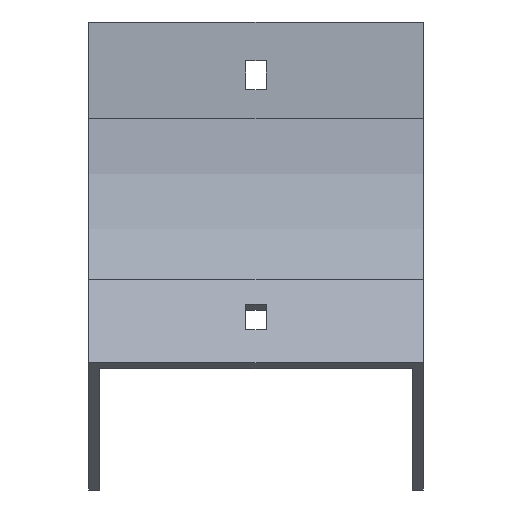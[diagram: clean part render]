
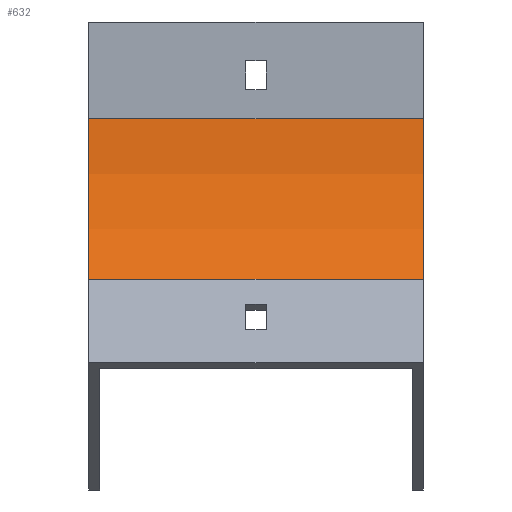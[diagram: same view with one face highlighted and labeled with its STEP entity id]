
A CAD part, front view. The second image highlights one B-rep face of the part: STEP entity #632.
In plain terms, the highlighted cylindrical face has radius 100 mm (diameter 200 mm), a partial arc.
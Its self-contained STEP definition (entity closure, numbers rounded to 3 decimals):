
#2 = LINE ( 'NONE', #610, #114 ) ;
#55 = DIRECTION ( 'NONE',  ( 0., 0., 1. ) ) ;
#95 = EDGE_CURVE ( 'NONE', #1310, #228, #694, .T. ) ;
#114 = VECTOR ( 'NONE', #1625, 1000. ) ;
#119 = AXIS2_PLACEMENT_3D ( 'NONE', #1873, #668, #55 ) ;
#131 = CARTESIAN_POINT ( 'NONE',  ( -52., 0., -30. ) ) ;
#228 = VERTEX_POINT ( 'NONE', #1279 ) ;
#352 = EDGE_LOOP ( 'NONE', ( #1575, #1280, #1222, #1781 ) ) ;
#376 = CARTESIAN_POINT ( 'NONE',  ( 52., -13.397, -80. ) ) ;
#610 = CARTESIAN_POINT ( 'NONE',  ( 52., 0., -30. ) ) ;
#632 = ADVANCED_FACE ( 'NONE', ( #828 ), #679, .F. ) ;
#668 = DIRECTION ( 'NONE',  ( -1., 0., 0. ) ) ;
#679 = CYLINDRICAL_SURFACE ( 'NONE', #119, 100. ) ;
#694 = CIRCLE ( 'NONE', #1092, 100. ) ;
#716 = CARTESIAN_POINT ( 'NONE',  ( 52., -13.397, -80. ) ) ;
#828 = FACE_OUTER_BOUND ( 'NONE', #352, .T. ) ;
#848 = EDGE_CURVE ( 'NONE', #1670, #1385, #1300, .T. ) ;
#939 = CARTESIAN_POINT ( 'NONE',  ( 52., 0., -30. ) ) ;
#947 = CARTESIAN_POINT ( 'NONE',  ( -52., -100., -30. ) ) ;
#958 = VECTOR ( 'NONE', #1259, 1000. ) ;
#963 = AXIS2_PLACEMENT_3D ( 'NONE', #1330, #1767, #1052 ) ;
#1052 = DIRECTION ( 'NONE',  ( 0., 0., 1. ) ) ;
#1070 = DIRECTION ( 'NONE',  ( 0., 0., 1. ) ) ;
#1092 = AXIS2_PLACEMENT_3D ( 'NONE', #947, #1231, #1070 ) ;
#1222 = ORIENTED_EDGE ( 'NONE', *, *, #848, .F. ) ;
#1231 = DIRECTION ( 'NONE',  ( -1., 0., 0. ) ) ;
#1259 = DIRECTION ( 'NONE',  ( -1., 0., 0. ) ) ;
#1279 = CARTESIAN_POINT ( 'NONE',  ( -52., -13.397, -80. ) ) ;
#1280 = ORIENTED_EDGE ( 'NONE', *, *, #1566, .F. ) ;
#1300 = CIRCLE ( 'NONE', #963, 100. ) ;
#1310 = VERTEX_POINT ( 'NONE', #131 ) ;
#1330 = CARTESIAN_POINT ( 'NONE',  ( 52., -100., -30. ) ) ;
#1385 = VERTEX_POINT ( 'NONE', #716 ) ;
#1566 = EDGE_CURVE ( 'NONE', #1385, #228, #1824, .T. ) ;
#1575 = ORIENTED_EDGE ( 'NONE', *, *, #95, .T. ) ;
#1625 = DIRECTION ( 'NONE',  ( -1., 0., 0. ) ) ;
#1670 = VERTEX_POINT ( 'NONE', #939 ) ;
#1767 = DIRECTION ( 'NONE',  ( -1., 0., 0. ) ) ;
#1781 = ORIENTED_EDGE ( 'NONE', *, *, #1930, .T. ) ;
#1824 = LINE ( 'NONE', #376, #958 ) ;
#1873 = CARTESIAN_POINT ( 'NONE',  ( 52., -100., -30. ) ) ;
#1930 = EDGE_CURVE ( 'NONE', #1670, #1310, #2, .T. ) ;
